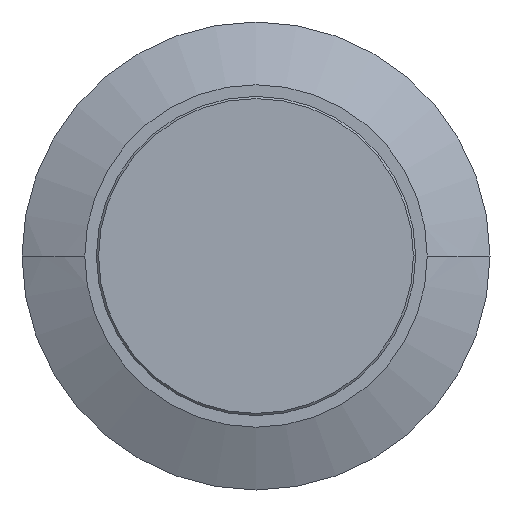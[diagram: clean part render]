
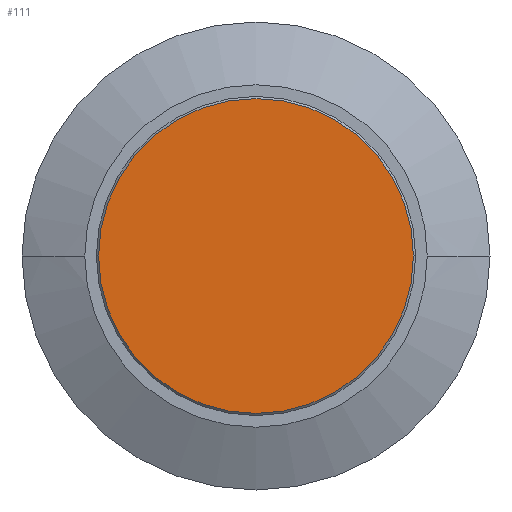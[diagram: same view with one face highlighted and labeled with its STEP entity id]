
A CAD part, left-side view. The second image highlights one B-rep face of the part: STEP entity #111.
In plain terms, the highlighted planar face has unit normal (-1, 0, 0).
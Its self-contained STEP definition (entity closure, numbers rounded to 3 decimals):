
#69=CARTESIAN_POINT('',(-17.66,0.,
0.));
#70=DIRECTION('',(1.,0.,0.));
#71=DIRECTION('',(0.,-1.,0.));
#72=AXIS2_PLACEMENT_3D('',#69,#70,#71);
#83=CARTESIAN_POINT('',(-17.66,0.,
0.));
#84=DIRECTION('',(1.,0.,0.));
#85=DIRECTION('',(0.,1.,0.));
#86=AXIS2_PLACEMENT_3D('',#83,#84,#85);
#96=CARTESIAN_POINT('',(-17.66,-7.4,0.));
#97=CARTESIAN_POINT('',(-17.66,7.4,0.));
#98=VERTEX_POINT('',#96);
#99=VERTEX_POINT('',#97);
#100=CARTESIAN_POINT('',(-17.66,0.,0.));
#101=DIRECTION('',(1.,0.,0.));
#102=DIRECTION('',(0.,-1.,0.));
#103=AXIS2_PLACEMENT_3D('',#100,#101,#102);
#104=PLANE('',#103);
#106=ORIENTED_EDGE('',*,*,#105,.T.);
#108=ORIENTED_EDGE('',*,*,#107,.T.);
#109=EDGE_LOOP('',(#106,#108));
#110=FACE_OUTER_BOUND('',#109,.F.);
#73=CIRCLE('',#72,7.4);
#87=CIRCLE('',#86,7.4);
#105=EDGE_CURVE('',#98,#99,#73,.T.);
#107=EDGE_CURVE('',#99,#98,#87,.T.);
#111=ADVANCED_FACE('',(#110),#104,.F.);
